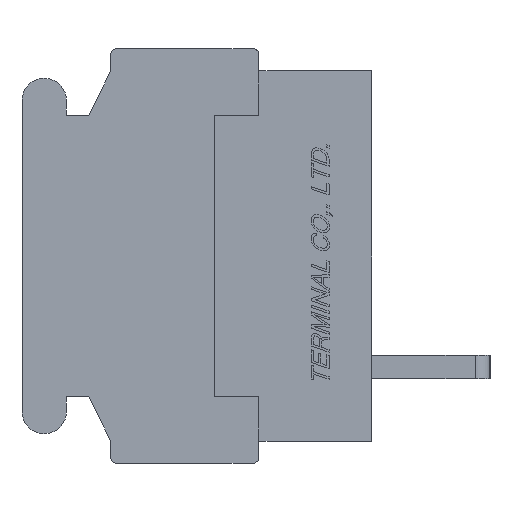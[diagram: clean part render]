
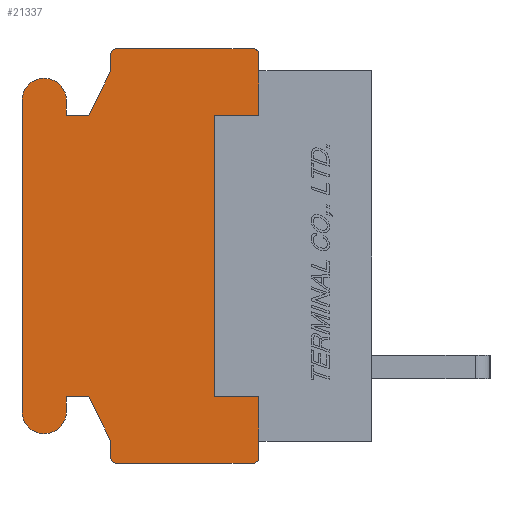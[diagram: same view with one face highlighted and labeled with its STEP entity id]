
A CAD part, left-side view. The second image highlights one B-rep face of the part: STEP entity #21337.
In plain terms, the highlighted planar face has unit normal (-1, 0, 0).
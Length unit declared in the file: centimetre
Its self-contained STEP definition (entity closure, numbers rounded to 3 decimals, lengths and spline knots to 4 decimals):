
#1142=CIRCLE('',#36178,0.02);
#1143=CIRCLE('',#36182,0.02);
#1144=CIRCLE('',#36185,0.02);
#1145=CIRCLE('',#36191,0.075);
#1146=CIRCLE('',#36194,0.075);
#1147=CIRCLE('',#36200,0.02);
#2927=VERTEX_POINT('',#33279);
#2928=VERTEX_POINT('',#33281);
#2929=VERTEX_POINT('',#33285);
#2930=VERTEX_POINT('',#33289);
#2931=VERTEX_POINT('',#33291);
#2932=VERTEX_POINT('',#33295);
#2933=VERTEX_POINT('',#33299);
#2934=VERTEX_POINT('',#33303);
#2935=VERTEX_POINT('',#33307);
#2936=VERTEX_POINT('',#33311);
#2937=VERTEX_POINT('',#33315);
#2938=VERTEX_POINT('',#33319);
#2939=VERTEX_POINT('',#33323);
#2940=VERTEX_POINT('',#33327);
#2941=VERTEX_POINT('',#33331);
#2942=VERTEX_POINT('',#33335);
#2943=VERTEX_POINT('',#33339);
#2944=VERTEX_POINT('',#33343);
#2945=VERTEX_POINT('',#33347);
#2946=VERTEX_POINT('',#33351);
#2947=VERTEX_POINT('',#33357);
#2948=VERTEX_POINT('',#33359);
#2949=VERTEX_POINT('',#33361);
#2950=VERTEX_POINT('',#33363);
#5217=VECTOR('',#26239,1.);
#5219=VECTOR('',#26242,1.);
#5223=VECTOR('',#26251,1.);
#5226=VECTOR('',#26259,1.);
#5228=VECTOR('',#26262,1.);
#5230=VECTOR('',#26265,1.);
#5232=VECTOR('',#26268,1.);
#5235=VECTOR('',#26276,1.);
#5238=VECTOR('',#26284,1.);
#5240=VECTOR('',#26287,1.);
#5242=VECTOR('',#26290,1.);
#5244=VECTOR('',#26293,1.);
#5246=VECTOR('',#26300,1.);
#5247=VECTOR('',#26302,1.);
#5248=VECTOR('',#26303,1.);
#5249=VECTOR('',#26304,1.);
#5250=VECTOR('',#26305,1.);
#5251=VECTOR('',#26306,1.);
#7585=LINE('',#33286,#5217);
#7587=LINE('',#33290,#5219);
#7591=LINE('',#33300,#5223);
#7594=LINE('',#33308,#5226);
#7596=LINE('',#33312,#5228);
#7598=LINE('',#33316,#5230);
#7600=LINE('',#33320,#5232);
#7603=LINE('',#33328,#5235);
#7606=LINE('',#33336,#5238);
#7608=LINE('',#33340,#5240);
#7610=LINE('',#33344,#5242);
#7612=LINE('',#33348,#5244);
#7614=LINE('',#33354,#5246);
#7615=LINE('',#33356,#5247);
#7616=LINE('',#33358,#5248);
#7617=LINE('',#33360,#5249);
#7618=LINE('',#33362,#5250);
#7619=LINE('',#33364,#5251);
#10712=EDGE_CURVE('',#2927,#2928,#1142,.T.);
#10715=EDGE_CURVE('',#2929,#2927,#7585,.T.);
#10717=EDGE_CURVE('',#2930,#2931,#7587,.T.);
#10720=EDGE_CURVE('',#2932,#2930,#1143,.T.);
#10722=EDGE_CURVE('',#2933,#2932,#7591,.T.);
#10724=EDGE_CURVE('',#2934,#2933,#1144,.T.);
#10726=EDGE_CURVE('',#2935,#2934,#7594,.T.);
#10728=EDGE_CURVE('',#2936,#2935,#7596,.T.);
#10730=EDGE_CURVE('',#2937,#2936,#7598,.T.);
#10732=EDGE_CURVE('',#2938,#2937,#7600,.T.);
#10734=EDGE_CURVE('',#2939,#2938,#1145,.T.);
#10736=EDGE_CURVE('',#2940,#2939,#7603,.T.);
#10738=EDGE_CURVE('',#2941,#2940,#1146,.T.);
#10740=EDGE_CURVE('',#2942,#2941,#7606,.T.);
#10742=EDGE_CURVE('',#2943,#2942,#7608,.T.);
#10744=EDGE_CURVE('',#2944,#2943,#7610,.T.);
#10746=EDGE_CURVE('',#2945,#2944,#7612,.T.);
#10748=EDGE_CURVE('',#2946,#2945,#1147,.T.);
#10749=EDGE_CURVE('',#2928,#2946,#7614,.T.);
#10750=EDGE_CURVE('',#2947,#2931,#7615,.T.);
#10751=EDGE_CURVE('',#2929,#2948,#7616,.T.);
#10752=EDGE_CURVE('',#2948,#2949,#7617,.T.);
#10753=EDGE_CURVE('',#2949,#2950,#7618,.T.);
#10754=EDGE_CURVE('',#2950,#2947,#7619,.T.);
#16636=ORIENTED_EDGE('',*,*,#10750,.T.);
#16637=ORIENTED_EDGE('',*,*,#10717,.F.);
#16638=ORIENTED_EDGE('',*,*,#10720,.F.);
#16639=ORIENTED_EDGE('',*,*,#10722,.F.);
#16640=ORIENTED_EDGE('',*,*,#10724,.F.);
#16641=ORIENTED_EDGE('',*,*,#10726,.F.);
#16642=ORIENTED_EDGE('',*,*,#10728,.F.);
#16643=ORIENTED_EDGE('',*,*,#10730,.F.);
#16644=ORIENTED_EDGE('',*,*,#10732,.F.);
#16645=ORIENTED_EDGE('',*,*,#10734,.F.);
#16646=ORIENTED_EDGE('',*,*,#10736,.F.);
#16647=ORIENTED_EDGE('',*,*,#10738,.F.);
#16648=ORIENTED_EDGE('',*,*,#10740,.F.);
#16649=ORIENTED_EDGE('',*,*,#10742,.F.);
#16650=ORIENTED_EDGE('',*,*,#10744,.F.);
#16651=ORIENTED_EDGE('',*,*,#10746,.F.);
#16652=ORIENTED_EDGE('',*,*,#10748,.F.);
#16653=ORIENTED_EDGE('',*,*,#10749,.F.);
#16654=ORIENTED_EDGE('',*,*,#10712,.F.);
#16655=ORIENTED_EDGE('',*,*,#10715,.F.);
#16656=ORIENTED_EDGE('',*,*,#10751,.T.);
#16657=ORIENTED_EDGE('',*,*,#10752,.T.);
#16658=ORIENTED_EDGE('',*,*,#10753,.T.);
#16659=ORIENTED_EDGE('',*,*,#10754,.T.);
#18814=EDGE_LOOP('',(#16636,#16637,#16638,#16639,#16640,#16641,#16642,#16643,
#16644,#16645,#16646,#16647,#16648,#16649,#16650,#16651,#16652,#16653,#16654,
#16655,#16656,#16657,#16658,#16659));
#20110=FACE_BOUND('',#18814,.T.);
#21337=ADVANCED_FACE('',(#20110),#22230,.F.);
#22230=PLANE('',#36202);
#26234=DIRECTION('',(1.,0.,0.));
#26235=DIRECTION('',(0.,0.,-0.02));
#26239=DIRECTION('',(0.,0.,-1.));
#26242=DIRECTION('',(0.,0.,-1.));
#26247=DIRECTION('',(1.,0.,0.));
#26248=DIRECTION('',(0.,0.,-0.02));
#26251=DIRECTION('',(0.,-1.,0.));
#26255=DIRECTION('',(1.,0.,0.));
#26256=DIRECTION('',(0.,0.,-0.02));
#26259=DIRECTION('',(0.,0.,1.));
#26262=DIRECTION('',(0.,-0.447,0.894));
#26265=DIRECTION('',(0.,-1.,0.));
#26268=DIRECTION('',(0.,0.,-1.));
#26272=DIRECTION('',(1.,0.,0.));
#26273=DIRECTION('',(0.,0.,-0.075));
#26276=DIRECTION('',(0.,0.,1.));
#26280=DIRECTION('',(1.,0.,0.));
#26281=DIRECTION('',(0.,0.,-0.075));
#26284=DIRECTION('',(0.,0.,-1.));
#26287=DIRECTION('',(0.,1.,0.));
#26290=DIRECTION('',(0.,0.447,0.894));
#26293=DIRECTION('',(0.,0.,1.));
#26297=DIRECTION('',(1.,0.,0.));
#26298=DIRECTION('',(0.,0.,-0.02));
#26300=DIRECTION('',(0.,1.,0.));
#26301=DIRECTION('',(1.,0.,0.));
#26302=DIRECTION('',(0.,0.,1.));
#26303=DIRECTION('',(0.,0.,1.));
#26304=DIRECTION('',(0.,1.,0.));
#26305=DIRECTION('',(0.,0.,1.));
#26306=DIRECTION('',(0.,-1.,0.));
#33279=CARTESIAN_POINT('',(-0.762,0.38,-0.68));
#33280=CARTESIAN_POINT('',(-0.762,0.4,-0.68));
#33281=CARTESIAN_POINT('',(-0.762,0.4,-0.7));
#33285=CARTESIAN_POINT('',(-0.762,0.38,-0.625));
#33286=CARTESIAN_POINT('',(-0.762,0.38,-0.625));
#33289=CARTESIAN_POINT('',(-0.762,0.38,0.68));
#33290=CARTESIAN_POINT('',(-0.762,0.38,0.68));
#33291=CARTESIAN_POINT('',(-0.762,0.38,0.625));
#33295=CARTESIAN_POINT('',(-0.762,0.4,0.7));
#33296=CARTESIAN_POINT('',(-0.762,0.4,0.68));
#33299=CARTESIAN_POINT('',(-0.762,0.86,0.7));
#33300=CARTESIAN_POINT('',(-0.762,0.86,0.7));
#33303=CARTESIAN_POINT('',(-0.762,0.88,0.68));
#33304=CARTESIAN_POINT('',(-0.762,0.86,0.68));
#33307=CARTESIAN_POINT('',(-0.762,0.88,0.625));
#33308=CARTESIAN_POINT('',(-0.762,0.88,0.625));
#33311=CARTESIAN_POINT('',(-0.762,0.955,0.475));
#33312=CARTESIAN_POINT('',(-0.762,0.955,0.475));
#33315=CARTESIAN_POINT('',(-0.762,1.03,0.475));
#33316=CARTESIAN_POINT('',(-0.762,1.03,0.475));
#33319=CARTESIAN_POINT('',(-0.762,1.03,0.525));
#33320=CARTESIAN_POINT('',(-0.762,1.03,0.525));
#33323=CARTESIAN_POINT('',(-0.762,1.18,0.525));
#33324=CARTESIAN_POINT('',(-0.762,1.105,0.525));
#33327=CARTESIAN_POINT('',(-0.762,1.18,-0.525));
#33328=CARTESIAN_POINT('',(-0.762,1.18,-0.525));
#33331=CARTESIAN_POINT('',(-0.762,1.03,-0.525));
#33332=CARTESIAN_POINT('',(-0.762,1.105,-0.525));
#33335=CARTESIAN_POINT('',(-0.762,1.03,-0.475));
#33336=CARTESIAN_POINT('',(-0.762,1.03,-0.475));
#33339=CARTESIAN_POINT('',(-0.762,0.955,-0.475));
#33340=CARTESIAN_POINT('',(-0.762,0.955,-0.475));
#33343=CARTESIAN_POINT('',(-0.762,0.88,-0.625));
#33344=CARTESIAN_POINT('',(-0.762,0.88,-0.625));
#33347=CARTESIAN_POINT('',(-0.762,0.88,-0.68));
#33348=CARTESIAN_POINT('',(-0.762,0.88,-0.68));
#33351=CARTESIAN_POINT('',(-0.762,0.86,-0.7));
#33352=CARTESIAN_POINT('',(-0.762,0.86,-0.68));
#33354=CARTESIAN_POINT('',(-0.762,0.4,-0.7));
#33355=CARTESIAN_POINT('',(-0.762,0.6059,0.));
#33356=CARTESIAN_POINT('',(-0.762,0.38,0.475));
#33357=CARTESIAN_POINT('',(-0.762,0.38,0.475));
#33358=CARTESIAN_POINT('',(-0.762,0.38,-0.625));
#33359=CARTESIAN_POINT('',(-0.762,0.38,-0.475));
#33360=CARTESIAN_POINT('',(-0.762,0.38,-0.475));
#33361=CARTESIAN_POINT('',(-0.762,0.53,-0.475));
#33362=CARTESIAN_POINT('',(-0.762,0.53,-0.475));
#33363=CARTESIAN_POINT('',(-0.762,0.53,0.475));
#33364=CARTESIAN_POINT('',(-0.762,0.53,0.475));
#36178=AXIS2_PLACEMENT_3D('',#33280,#26234,#26235);
#36182=AXIS2_PLACEMENT_3D('',#33296,#26247,#26248);
#36185=AXIS2_PLACEMENT_3D('',#33304,#26255,#26256);
#36191=AXIS2_PLACEMENT_3D('',#33324,#26272,#26273);
#36194=AXIS2_PLACEMENT_3D('',#33332,#26280,#26281);
#36200=AXIS2_PLACEMENT_3D('',#33352,#26297,#26298);
#36202=AXIS2_PLACEMENT_3D('',#33355,#26301,$);
